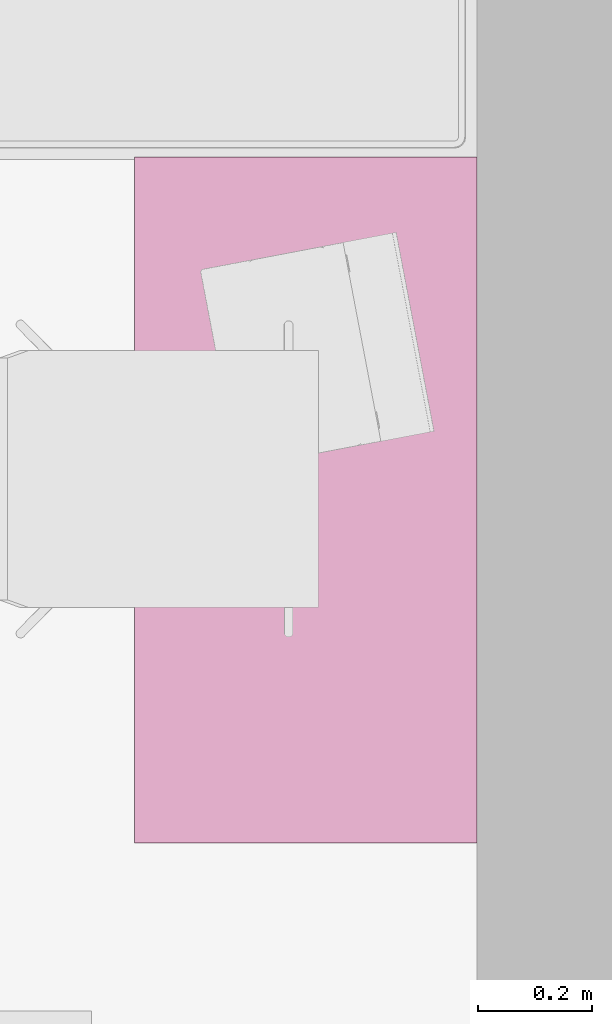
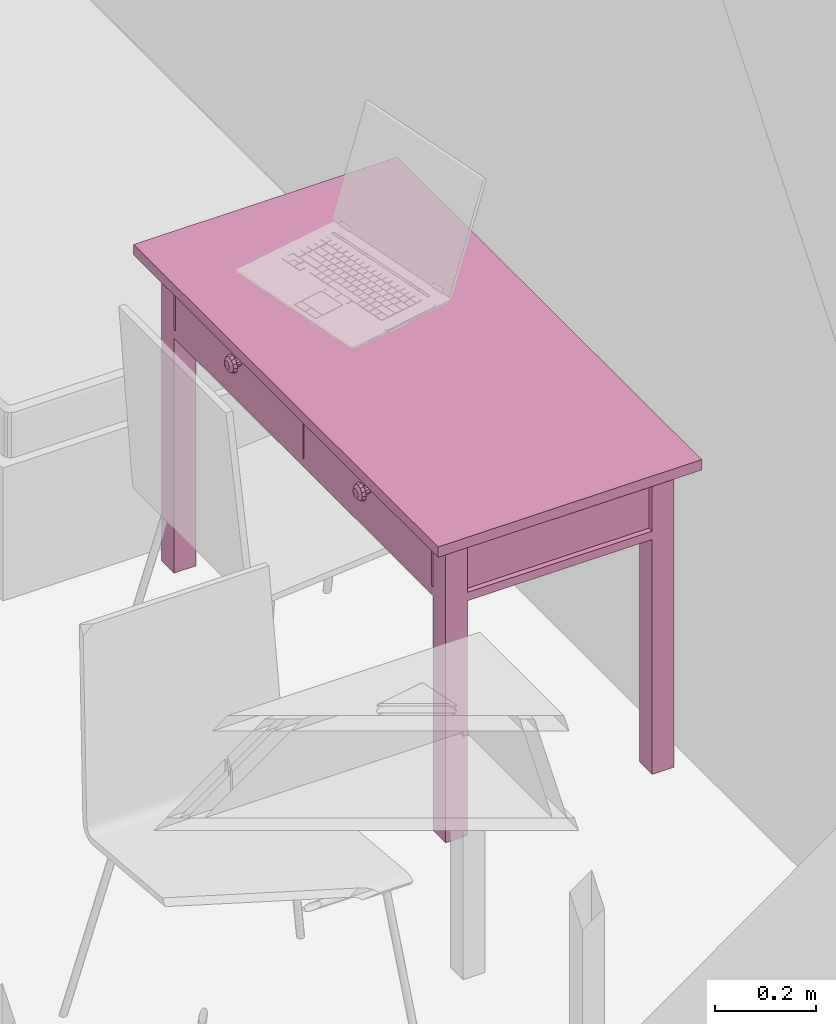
# One storey, part 84 of 165: 1 furnishing.
"""IFC2X3 building model written with IfcOpenShell, lengths in millimetres."""

from ifc_helpers import new_model, entity, si_unit, converted_unit, money_unit, direction, frame, origin_with_axes, place, context, subcontext, project, spatial, faceted_brep, source, transform, mapped, material, material_list, type_object, element, save


model = new_model("IFC2X3")

# Units and contexts
model_context = context("Model", 3, precision=1e-05, world=origin_with_axes(), true_north=direction((0.0, 1.0)))
body_context = subcontext(model_context, "Body", "Model", "MODEL_VIEW")
ifc_project = project(units=[si_unit("LENGTHUNIT", "METRE", prefix="MILLI"), si_unit("AREAUNIT", "SQUARE_METRE"), si_unit("VOLUMEUNIT", "CUBIC_METRE"), converted_unit("PLANEANGLEUNIT", "DEGREE", entity("IfcPlaneAngleMeasure", 0.0174532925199), si_unit("PLANEANGLEUNIT", "RADIAN"), dimensions=[0, 0, 0, 0, 0, 0, 0]), si_unit("SOLIDANGLEUNIT", "STERADIAN"), money_unit("USD"), converted_unit("TIMEUNIT", "Year", entity("IfcTimeMeasure", 31556926.0), si_unit("TIMEUNIT", "SECOND"), dimensions=[0, 0, 0, 0, 0, 0, 0]), si_unit("MASSUNIT", "GRAM"), si_unit("THERMODYNAMICTEMPERATUREUNIT", "DEGREE_CELSIUS"), si_unit("LUMINOUSINTENSITYUNIT", "LUMEN")], contexts=[model_context])

# Site, building, storey
site_placement = place(None, origin_with_axes())
site = spatial("IfcSite", under=ifc_project, at=site_placement, Name="Site", CompositionType="ELEMENT")
building_placement = place(site_placement, origin_with_axes())
building = spatial("IfcBuilding", under=site, at=building_placement, Name="Building", CompositionType="ELEMENT")
storey_placement = place(building_placement, frame((0.0, 0.0, 6300.0), z_axis=(0.0, 0.0, 1.0), x_axis=(1.0, 0.0, 0.0)))
storey = spatial("IfcBuildingStorey", under=building, at=storey_placement, Name="4KORRUS", CompositionType="ELEMENT", Elevation=6300.0)

# Furnishing
ifc_material = material(Name="Background")
ifc_material_list = material_list([ifc_material])
furnishing_element_type = type_object("IfcFurnishingElementType", Name="Rectangular Table 01 19")
shared_shape = source(origin_with_axes(), body_context, "Body", "Brep", [
    faceted_brep([(90.0, 40.0, 0.0), (40.0, 40.0, 0.0), (40.0, 90.0, 0.0), (90.0, 90.0, 0.0), (90.0, 40.0, 725.0), (40.0, 40.0, 725.0), (40.0, 90.0, 725.0), (90.0, 90.0, 725.0)], [[[0, 1, 2, 3]], [[1, 0, 4, 5]], [[2, 1, 5, 6]], [[3, 2, 6, 7]], [[0, 3, 7, 4]], [[5, 4, 7, 6]]]),
    faceted_brep([(1160.0, 40.0, 0.0), (1110.0, 40.0, 0.0), (1110.0, 90.0, 0.0), (1160.0, 90.0, 0.0), (1160.0, 40.0, 725.0), (1110.0, 40.0, 725.0), (1110.0, 90.0, 725.0), (1160.0, 90.0, 725.0)], [[[0, 1, 2, 3]], [[1, 0, 4, 5]], [[2, 1, 5, 6]], [[3, 2, 6, 7]], [[0, 3, 7, 4]], [[5, 4, 7, 6]]]),
    faceted_brep([(90.0, 510.0, 0.0), (40.0, 510.0, 0.0), (40.0, 560.0, 0.0), (90.0, 560.0, 0.0), (90.0, 510.0, 725.0), (40.0, 510.0, 725.0), (40.0, 560.0, 725.0), (90.0, 560.0, 725.0)], [[[0, 1, 2, 3]], [[1, 0, 4, 5]], [[2, 1, 5, 6]], [[3, 2, 6, 7]], [[0, 3, 7, 4]], [[5, 4, 7, 6]]]),
    faceted_brep([(1160.0, 510.0, 0.0), (1110.0, 510.0, 0.0), (1110.0, 560.0, 0.0), (1160.0, 560.0, 0.0), (1160.0, 510.0, 725.0), (1110.0, 510.0, 725.0), (1110.0, 560.0, 725.0), (1160.0, 560.0, 725.0)], [[[0, 1, 2, 3]], [[1, 0, 4, 5]], [[2, 1, 5, 6]], [[3, 2, 6, 7]], [[0, 3, 7, 4]], [[5, 4, 7, 6]]]),
    faceted_brep([(1160.0, 40.0, 565.0), (40.0, 40.0, 565.0), (40.0, 560.0, 565.0), (1160.0, 560.0, 565.0), (1160.0, 40.0, 585.0), (40.0, 40.0, 585.0), (40.0, 560.0, 585.0), (1160.0, 560.0, 585.0)], [[[0, 1, 2, 3]], [[1, 0, 4, 5]], [[2, 1, 5, 6]], [[3, 2, 6, 7]], [[0, 3, 7, 4]], [[5, 4, 7, 6]]]),
    faceted_brep([(1110.0, 52.5, 585.0), (90.0, 52.5, 585.0), (90.0, 77.5, 585.0), (1110.0, 77.5, 585.0), (1110.0, 52.5, 745.0), (90.0, 52.5, 745.0), (90.0, 77.5, 745.0), (1110.0, 77.5, 745.0)], [[[0, 1, 2, 3]], [[1, 0, 4, 5]], [[2, 1, 5, 6]], [[3, 2, 6, 7]], [[0, 3, 7, 4]], [[5, 4, 7, 6]]]),
    faceted_brep([(77.5, 90.0, 585.0), (52.5, 90.0, 585.0), (52.5, 510.0, 585.0), (77.5, 510.0, 585.0), (77.5, 90.0, 745.0), (52.5, 90.0, 745.0), (52.5, 510.0, 745.0), (77.5, 510.0, 745.0)], [[[0, 1, 2, 3]], [[1, 0, 4, 5]], [[2, 1, 5, 6]], [[3, 2, 6, 7]], [[0, 3, 7, 4]], [[5, 4, 7, 6]]]),
    faceted_brep([(90.0, 547.5, 585.0), (1110.0, 547.5, 585.0), (1110.0, 522.5, 585.0), (90.0, 522.5, 585.0), (90.0, 547.5, 745.0), (1110.0, 547.5, 745.0), (1110.0, 522.5, 745.0), (90.0, 522.5, 745.0)], [[[0, 1, 2, 3]], [[1, 0, 4, 5]], [[2, 1, 5, 6]], [[3, 2, 6, 7]], [[0, 3, 7, 4]], [[5, 4, 7, 6]]]),
    faceted_brep([(1122.5, 510.0, 585.0), (1147.5, 510.0, 585.0), (1147.5, 90.0, 585.0), (1122.5, 90.0, 585.0), (1122.5, 510.0, 745.0), (1147.5, 510.0, 745.0), (1147.5, 90.0, 745.0), (1122.5, 90.0, 745.0)], [[[0, 1, 2, 3]], [[1, 0, 4, 5]], [[2, 1, 5, 6]], [[3, 2, 6, 7]], [[0, 3, 7, 4]], [[5, 4, 7, 6]]]),
    faceted_brep([(597.5, 40.0, 585.0), (95.0, 40.0, 585.0), (95.0, 60.0, 585.0), (597.5, 60.0, 585.0), (597.5, 40.0, 745.0), (95.0, 40.0, 745.0), (95.0, 60.0, 745.0), (597.5, 60.0, 745.0)], [[[0, 1, 2, 3]], [[1, 0, 4, 5]], [[2, 1, 5, 6]], [[3, 2, 6, 7]], [[0, 3, 7, 4]], [[5, 4, 7, 6]]]),
    faceted_brep([(1105.0, 40.0, 585.0), (602.5, 40.0, 585.0), (602.5, 60.0, 585.0), (1105.0, 60.0, 585.0), (1105.0, 40.0, 745.0), (602.5, 40.0, 745.0), (602.5, 60.0, 745.0), (1105.0, 60.0, 745.0)], [[[0, 1, 2, 3]], [[1, 0, 4, 5]], [[2, 1, 5, 6]], [[3, 2, 6, 7]], [[0, 3, 7, 4]], [[5, 4, 7, 6]]]),
    faceted_brep([(354.91, 40.0, 660.0), (351.25, 40.0, 656.34), (346.25, 40.0, 655.0), (341.25, 40.0, 656.34), (337.59, 40.0, 660.0), (336.25, 40.0, 665.0), (337.59, 40.0, 670.0), (341.25, 40.0, 673.66), (346.25, 40.0, 675.0), (351.25, 40.0, 673.66), (354.91, 40.0, 670.0), (356.25, 40.0, 665.0), (354.91, 25.0, 660.0), (351.25, 25.0, 656.34), (346.25, 25.0, 655.0), (341.25, 25.0, 656.34), (337.59, 25.0, 660.0), (336.25, 25.0, 665.0), (337.59, 25.0, 670.0), (341.25, 25.0, 673.66), (346.25, 25.0, 675.0), (351.25, 25.0, 673.66), (354.91, 25.0, 670.0), (356.25, 25.0, 665.0)], [[[0, 1, 2, 3, 4, 5, 6, 7, 8, 9, 10, 11]], [[1, 0, 12, 13]], [[2, 1, 13, 14]], [[3, 2, 14, 15]], [[4, 3, 15, 16]], [[5, 4, 16, 17]], [[6, 5, 17, 18]], [[7, 6, 18, 19]], [[8, 7, 19, 20]], [[9, 8, 20, 21]], [[10, 9, 21, 22]], [[11, 10, 22, 23]], [[0, 11, 23, 12]], [[12, 23, 22, 21, 20, 19, 18, 17, 16, 15, 14, 13]]]),
    faceted_brep([(356.25, 12.01, 665.0), (346.25, 10.0, 665.0), (354.91, 12.01, 660.0), (354.91, 12.01, 670.0), (351.25, 12.01, 656.34), (363.571, 17.5, 665.0), (361.25, 17.5, 656.34), (351.25, 12.01, 673.66), (361.25, 17.5, 673.66), (346.25, 12.01, 655.0), (354.91, 17.5, 650.0), (366.25, 25.0, 665.0), (363.571, 25.0, 655.0), (346.25, 12.01, 675.0), (354.91, 17.5, 680.0), (363.571, 25.0, 675.0), (341.25, 12.01, 656.34), (346.25, 17.5, 647.679), (356.25, 25.0, 647.679), (346.25, 25.0, 645.0), (336.25, 25.0, 647.679), (328.929, 25.0, 655.0), (326.25, 25.0, 665.0), (328.929, 25.0, 675.0), (336.25, 25.0, 682.321), (346.25, 25.0, 685.0), (356.25, 25.0, 682.321), (341.25, 12.01, 673.66), (346.25, 17.5, 682.321), (337.59, 12.01, 660.0), (337.59, 17.5, 650.0), (331.25, 17.5, 656.34), (328.929, 17.5, 665.0), (331.25, 17.5, 673.66), (337.59, 17.5, 680.0), (337.59, 12.01, 670.0), (336.25, 12.01, 665.0)], [[[0, 1, 2]], [[3, 1, 0]], [[2, 1, 4]], [[5, 0, 2, 6]], [[7, 1, 3]], [[8, 3, 0, 5]], [[4, 1, 9]], [[6, 2, 4, 10]], [[11, 5, 6, 12]], [[13, 1, 7]], [[14, 7, 3, 8]], [[15, 8, 5, 11]], [[9, 1, 16]], [[10, 4, 9, 17]], [[12, 6, 10, 18]], [[12, 18, 19, 20, 21, 22, 23, 24, 25, 26, 15, 11]], [[27, 1, 13]], [[28, 13, 7, 14]], [[26, 14, 8, 15]], [[16, 1, 29]], [[17, 9, 16, 30]], [[18, 10, 17, 19]], [[19, 17, 30, 20]], [[20, 30, 31, 21]], [[21, 31, 32, 22]], [[22, 32, 33, 23]], [[23, 33, 34, 24]], [[24, 34, 28, 25]], [[25, 28, 14, 26]], [[35, 1, 27]], [[34, 27, 13, 28]], [[29, 1, 36]], [[30, 16, 29, 31]], [[31, 29, 36, 32]], [[32, 36, 35, 33]], [[33, 35, 27, 34]], [[36, 1, 35]]]),
    faceted_brep([(862.41, 40.0, 660.0), (858.75, 40.0, 656.34), (853.75, 40.0, 655.0), (848.75, 40.0, 656.34), (845.09, 40.0, 660.0), (843.75, 40.0, 665.0), (845.09, 40.0, 670.0), (848.75, 40.0, 673.66), (853.75, 40.0, 675.0), (858.75, 40.0, 673.66), (862.41, 40.0, 670.0), (863.75, 40.0, 665.0), (862.41, 25.0, 660.0), (858.75, 25.0, 656.34), (853.75, 25.0, 655.0), (848.75, 25.0, 656.34), (845.09, 25.0, 660.0), (843.75, 25.0, 665.0), (845.09, 25.0, 670.0), (848.75, 25.0, 673.66), (853.75, 25.0, 675.0), (858.75, 25.0, 673.66), (862.41, 25.0, 670.0), (863.75, 25.0, 665.0)], [[[0, 1, 2, 3, 4, 5, 6, 7, 8, 9, 10, 11]], [[1, 0, 12, 13]], [[2, 1, 13, 14]], [[3, 2, 14, 15]], [[4, 3, 15, 16]], [[5, 4, 16, 17]], [[6, 5, 17, 18]], [[7, 6, 18, 19]], [[8, 7, 19, 20]], [[9, 8, 20, 21]], [[10, 9, 21, 22]], [[11, 10, 22, 23]], [[0, 11, 23, 12]], [[12, 23, 22, 21, 20, 19, 18, 17, 16, 15, 14, 13]]]),
    faceted_brep([(863.75, 12.01, 665.0), (853.75, 10.0, 665.0), (862.41, 12.01, 660.0), (862.41, 12.01, 670.0), (858.75, 12.01, 656.34), (871.071, 17.5, 665.0), (868.75, 17.5, 656.34), (858.75, 12.01, 673.66), (868.75, 17.5, 673.66), (853.75, 12.01, 655.0), (862.41, 17.5, 650.0), (873.75, 25.0, 665.0), (871.071, 25.0, 655.0), (853.75, 12.01, 675.0), (862.41, 17.5, 680.0), (871.071, 25.0, 675.0), (848.75, 12.01, 656.34), (853.75, 17.5, 647.679), (863.75, 25.0, 647.679), (853.75, 25.0, 645.0), (843.75, 25.0, 647.679), (836.429, 25.0, 655.0), (833.75, 25.0, 665.0), (836.429, 25.0, 675.0), (843.75, 25.0, 682.321), (853.75, 25.0, 685.0), (863.75, 25.0, 682.321), (848.75, 12.01, 673.66), (853.75, 17.5, 682.321), (845.09, 12.01, 660.0), (845.09, 17.5, 650.0), (838.75, 17.5, 656.34), (836.429, 17.5, 665.0), (838.75, 17.5, 673.66), (845.09, 17.5, 680.0), (845.09, 12.01, 670.0), (843.75, 12.01, 665.0)], [[[0, 1, 2]], [[3, 1, 0]], [[2, 1, 4]], [[5, 0, 2, 6]], [[7, 1, 3]], [[8, 3, 0, 5]], [[4, 1, 9]], [[6, 2, 4, 10]], [[11, 5, 6, 12]], [[13, 1, 7]], [[14, 7, 3, 8]], [[15, 8, 5, 11]], [[9, 1, 16]], [[10, 4, 9, 17]], [[12, 6, 10, 18]], [[12, 18, 19, 20, 21, 22, 23, 24, 25, 26, 15, 11]], [[27, 1, 13]], [[28, 13, 7, 14]], [[26, 14, 8, 15]], [[16, 1, 29]], [[17, 9, 16, 30]], [[18, 10, 17, 19]], [[19, 17, 30, 20]], [[20, 30, 31, 21]], [[21, 31, 32, 22]], [[22, 32, 33, 23]], [[23, 33, 34, 24]], [[24, 34, 28, 25]], [[25, 28, 14, 26]], [[35, 1, 27]], [[34, 27, 13, 28]], [[29, 1, 36]], [[30, 16, 29, 31]], [[31, 29, 36, 32]], [[32, 36, 35, 33]], [[33, 35, 27, 34]], [[36, 1, 35]]]),
    faceted_brep([(1200.0, 0.0, 725.0), (0.0, 0.0, 725.0), (0.0, 600.0, 725.0), (1200.0, 600.0, 725.0), (1200.0, 0.0, 750.0), (0.0, 0.0, 750.0), (0.0, 600.0, 750.0), (1200.0, 600.0, 750.0)], [[[0, 1, 2, 3]], [[1, 0, 4, 5]], [[2, 1, 5, 6]], [[3, 2, 6, 7]], [[0, 3, 7, 4]], [[5, 4, 7, 6]]]),
])
furnishing_placement = place(storey_placement, frame((-24890.2967033, -17434.8573505, 0.0), z_axis=(0.0, 0.0, 1.0), x_axis=(0.0, -1.0, 0.0)))
element("IfcFurnishingElement", 1, at=furnishing_placement, inside=storey, type_object=furnishing_element_type, material=ifc_material_list, Name="FU - 011", context=body_context, shape_type="MappedRepresentation", body=[
    mapped(shared_shape, transform((0.0, 0.0, 0.0))),
])

save(model, "model.ifc")
